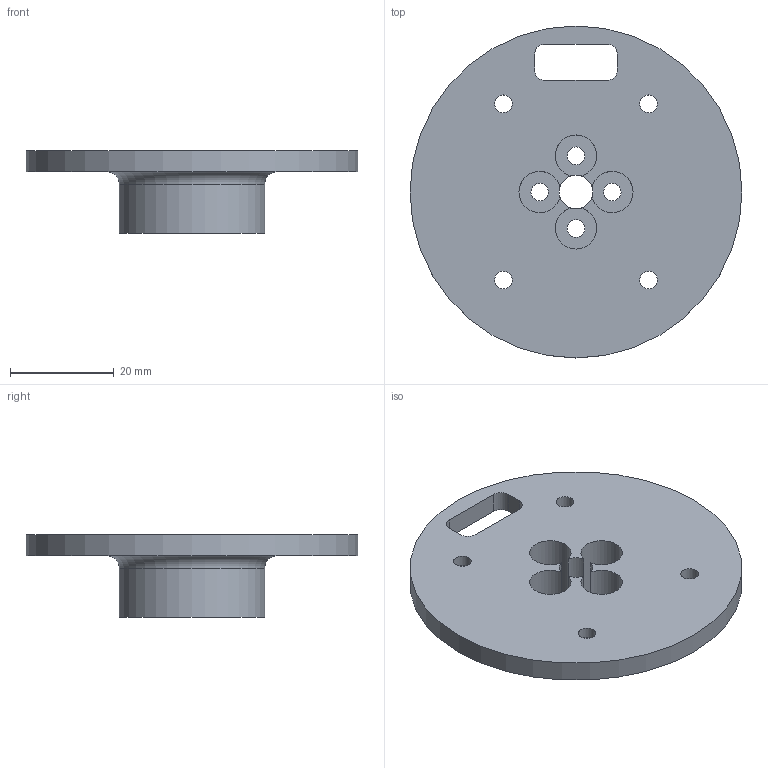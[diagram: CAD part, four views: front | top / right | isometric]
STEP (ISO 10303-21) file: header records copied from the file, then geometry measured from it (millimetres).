
FILE_DESCRIPTION(/* description */ ('Lightweight BRep snapshot from recovered OrionV2; original feature history remains in the preserved master. Packaging draft.'),/* implementation_level */ '2;1');
FILE_NAME(/* name */ '07 Yaw horn adapter (1).step',/* time_stamp */ '2026-10-02T18:55:04+01:00',/* author */ (''),/* organization */ (''),/* preprocessor_version */ 'ST-DEVELOPER v20.2',/* originating_system */ 'Autodesk Translation Framework v15.15.0.0',/* authorisation */ '');
FILE_SCHEMA (('AUTOMOTIVE_DESIGN { 1 0 10303 214 3 1 1 }'));
Length unit declared in the file: millimetre
Products named in the file (1): 2026-10-02-18-55-03-988
Bounding box: 64 x 64 x 15.9 mm (x, y, z)
Volume: 16180.1 mm3; surface area: 9774.5 mm2
Topology: 1 solids, 1 shells, 39 faces, 95 edges, 63 vertices
Faces by surface type: cylinder 23, plane 15, torus 1
Full cylindrical faces by diameter (mm): 3.4 x8, 6.5 x1, 6.6 x4, 28 x1, 64 x1
Entity records: 1257 total; most frequent: DIRECTION 231, CARTESIAN_POINT 198, ORIENTED_EDGE 190, AXIS2_PLACEMENT_3D 96, EDGE_CURVE 95, EDGE_LOOP 64, VERTEX_POINT 63, CIRCLE 56
